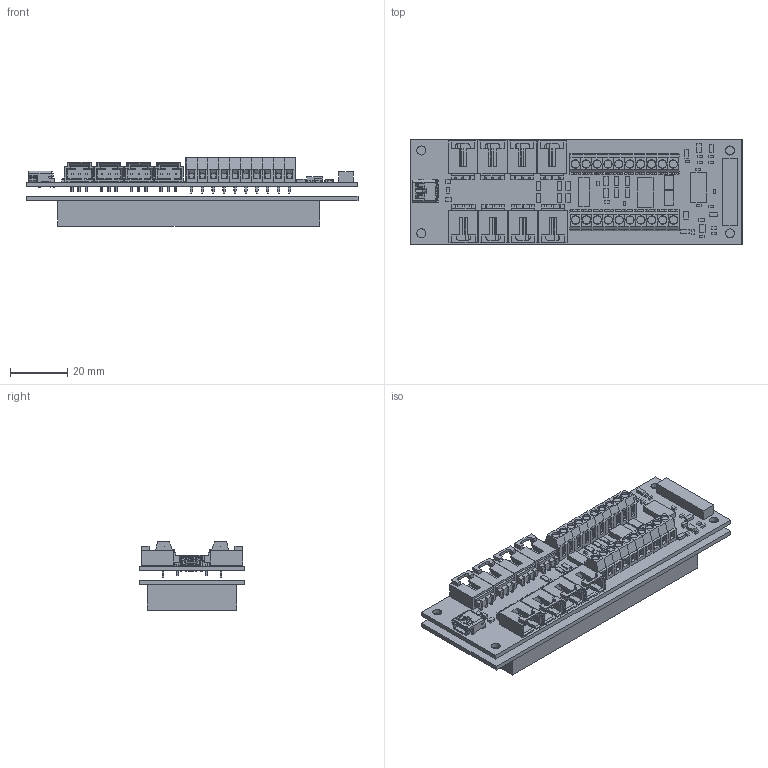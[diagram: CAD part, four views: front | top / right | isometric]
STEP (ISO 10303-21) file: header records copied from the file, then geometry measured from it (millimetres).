
FILE_DESCRIPTION(('Open CASCADE Model'),'2;1');
FILE_NAME('Open CASCADE Shape Model','2010-12-02T12:32:03',('Author'),( 'Open CASCADE'),'Open CASCADE STEP processor 6.2','Open CASCADE 6.2' ,'Unknown');
FILE_SCHEMA(('AUTOMOTIVE_DESIGN { 1 0 10303 214 1 1 1 1 }'));
Length unit declared in the file: millimetre
Products named in the file (103): PCB; Board; J1; 548190519; Open CASCADE STEP translator 6.2 62.2.1.1; Open CASCADE STEP translator 6.2 62.2.1.2; L1; 611814704; Extruded; U5; 510520640; J11; 705530002; Open CASCADE STEP translator 6.2 62.5.1.1; Open CASCADE STEP translator 6.2 62.5.1.2; J10; J9; J8; J7; d10_asm; 20020327-D-LEM; 20020327-D-REM; J6; J5; J4; J3; J2; J12; 611838128; 611835696; 611838512; R4; 510519872; R6; R7; R8; R9; R13; C5; C11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
Assembly tree (148 placements, depth 4):
  PCB
    Board
    J1
      548190519
        Open CASCADE STEP translator 6.2 62.2.1.1
        Open CASCADE STEP translator 6.2 62.2.1.2
    L1
      611814704
        Extruded
    U5
      510520640
        Extruded
    J11
      705530002
        Open CASCADE STEP translator 6.2 62.5.1.1
        Open CASCADE STEP translator 6.2 62.5.1.2
    J10
      705530002
        Open CASCADE STEP translator 6.2 62.5.1.1
        Open CASCADE STEP translator 6.2 62.5.1.2
    J9
      705530002
        Open CASCADE STEP translator 6.2 62.5.1.1
        Open CASCADE STEP translator 6.2 62.5.1.2
    J8
      705530002
        Open CASCADE STEP translator 6.2 62.5.1.1
        Open CASCADE STEP translator 6.2 62.5.1.2
    J7
      d10_asm
        20020327-D-LEM
        20020327-D-REM  x10
    J6
      705530002
        Open CASCADE STEP translator 6.2 62.5.1.1
        Open CASCADE STEP translator 6.2 62.5.1.2
    J5
      705530002
        Open CASCADE STEP translator 6.2 62.5.1.1
        Open CASCADE STEP translator 6.2 62.5.1.2
    J4
      d10_asm
        20020327-D-LEM
        20020327-D-REM  x10
    J3
      705530002
        Open CASCADE STEP translator 6.2 62.5.1.1
        Open CASCADE STEP translator 6.2 62.5.1.2
    J2
      705530002
        Open CASCADE STEP translator 6.2 62.5.1.1
        Open CASCADE STEP translator 6.2 62.5.1.2
    J12
      611838128
        Extruded
      611835696
        Extruded
      611838512
        Extruded
    R4
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Bounding box: 116.2 x 37.08 x 23.9 mm (x, y, z)
Volume: 47324.8 mm3; surface area: 41660.2 mm2
Topology: 101 solids, 101 shells, 3971 faces, 10550 edges, 6892 vertices
Faces by surface type: plane 3358, cylinder 547, cone 48, bspline 18
Full cylindrical faces by diameter (mm): 0.8 x5, 0.965 x42, 1.321 x20, 1.829 x4, 3.175 x4
Entity records: 64375 total; most frequent: CARTESIAN_POINT 15566, DIRECTION 8646, LINE 5847, VECTOR 5847, ORIENTED_EDGE 4696, PCURVE 4696, DEFINITIONAL_REPRESENTATION 4696, EDGE_CURVE 2348
